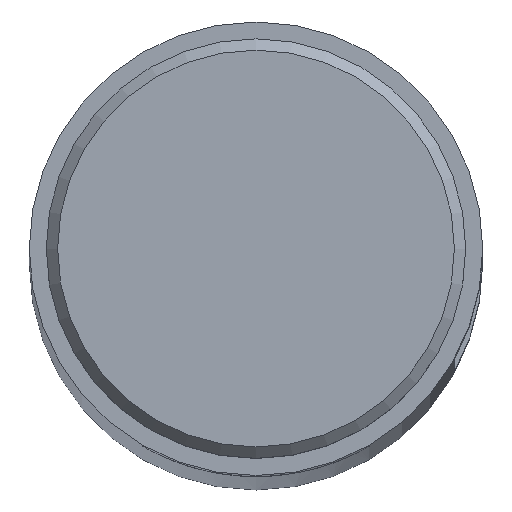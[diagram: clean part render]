
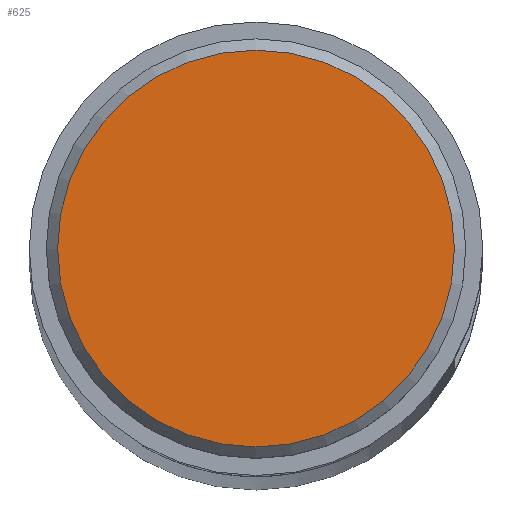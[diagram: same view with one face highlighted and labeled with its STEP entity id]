
A CAD part, top view. The second image highlights one B-rep face of the part: STEP entity #625.
In plain terms, the highlighted planar face has unit normal (0, 0, 1) as drawn and (0, 1, 0) by its records, which use the part's own axes.
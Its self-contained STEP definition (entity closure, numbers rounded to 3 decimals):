
#594=CARTESIAN_POINT('',(1.75,3.5,0.));
#595=VERTEX_POINT('',#594);
#596=CARTESIAN_POINT('',(0.0,3.5,0.0));
#597=DIRECTION('',(0.0,-1.0,0.0));
#598=DIRECTION('',(-1.0,0.0,0.0));
#599=AXIS2_PLACEMENT_3D('',#596,#597,#598);
#600=CIRCLE('',#599,1.75);
#601=EDGE_CURVE('',#595,#595,#600,.T.);
#617=CARTESIAN_POINT('',(0.925,3.5,0.0));
#618=DIRECTION('',(0.0,1.0,0.0));
#619=DIRECTION('',(0.0,0.0,1.0));
#620=AXIS2_PLACEMENT_3D('',#617,#618,#619);
#621=PLANE('',#620);
#622=ORIENTED_EDGE('',*,*,#601,.F.);
#623=EDGE_LOOP('',(#622));
#624=FACE_OUTER_BOUND('',#623,.T.);
#625=ADVANCED_FACE('',(#624),#621,.T.);
